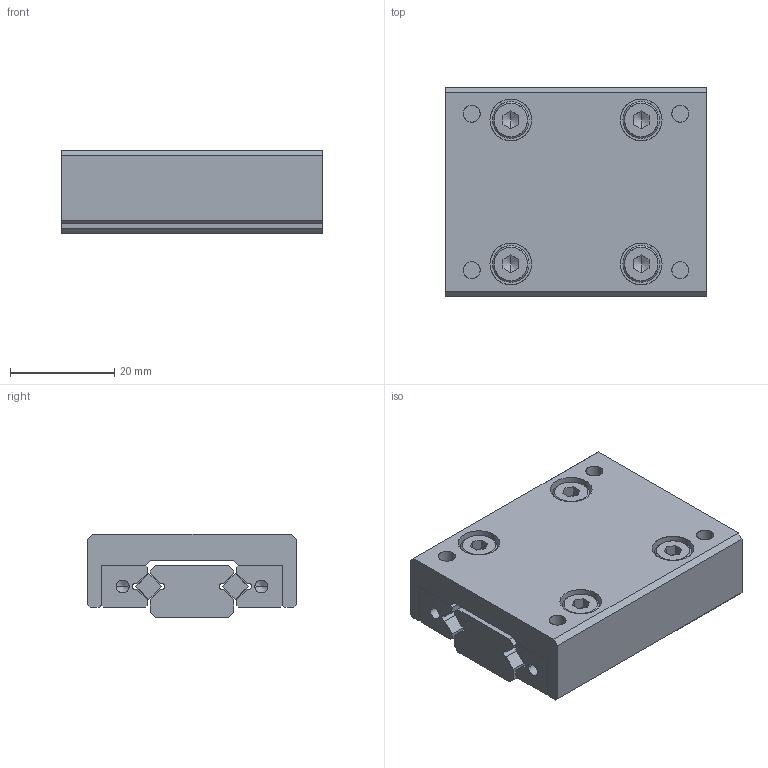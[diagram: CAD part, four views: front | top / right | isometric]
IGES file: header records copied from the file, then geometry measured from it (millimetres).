
Global section: file name: No Iges File Name specified; native system: AutoDesk Inventor R10; preprocessor: AutoDesk Inventor Iges Exporter R10; author: No Author specified; organization: No Organization specified; date: 20101224.112536; units: millimetre
Bounding box: 50 x 40 x 16 mm (x, y, z)
Surface area: 14113.9 mm2 (no closed solid volume)
Topology: 0 solids, 0 shells, 293 faces, 1752 edges, 1736 vertices
Faces by surface type: bspline 293
